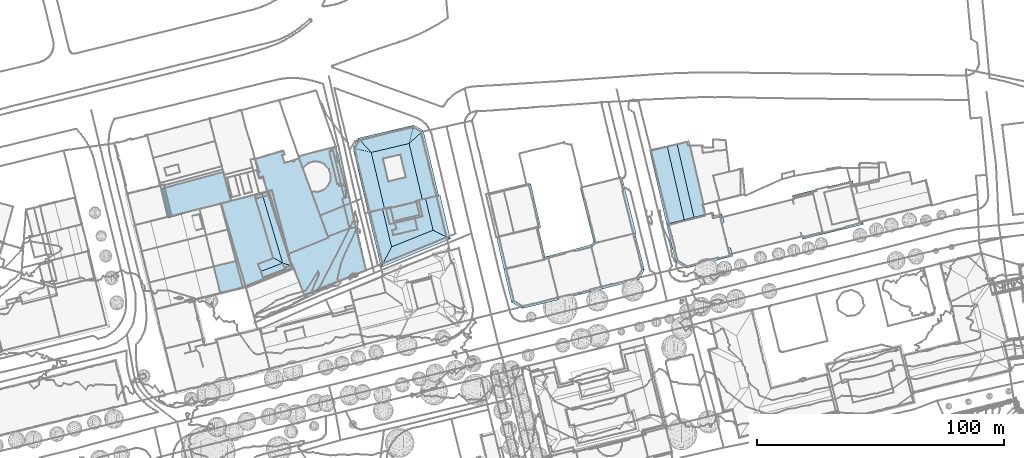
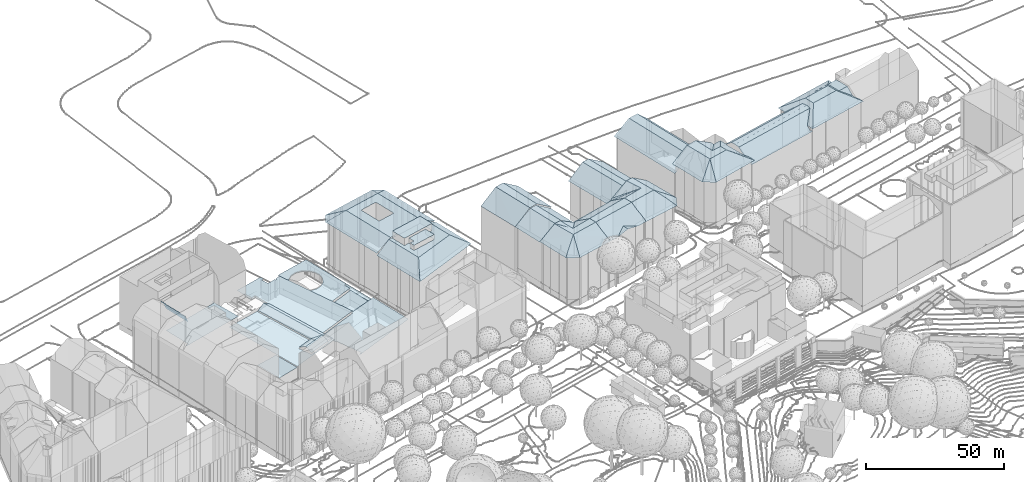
# Not in any storey, part 81 of 494: 22 roofs.
"""IFC2X3 model written with IfcOpenShell, lengths in metres."""

from ifc_helpers import new_model, si_unit, frame, origin_with_axes, place, context, subcontext, project, faceted_brep, element, save


model = new_model("IFC2X3")

# Units and contexts
model_context = context("Model", 3, precision=1e-05, world=origin_with_axes())
body_context = subcontext(model_context, "Body", "Model", "MODEL_VIEW")
ifc_project = project(units=[si_unit("AREAUNIT", "SQUARE_METRE"), si_unit("LENGTHUNIT", "METRE")], contexts=[model_context])

# Roofs
roof_1_placement = place(None, frame((230.2577320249, 452.7801160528, 539.0125), z_axis=(0.0, 0.0, 1.0), x_axis=(1.0, 0.0, 0.0)))
element("IfcRoof", 1, at=roof_1_placement, Name="Roof 0", ShapeType="NOTDEFINED", context=body_context, shape_type="Brep", body=[
    faceted_brep([(23.8570000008, 8.5830000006, 21.8509), (6.8570000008, -1.5791000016, 25.1226), (22.1760000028, 2.0302999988, 25.1226), (2.2350000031, 3.4296999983, 21.8829), (24.0930000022, 9.504900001, 21.391), (1.5340000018, 4.1893999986, 21.391), (13.8490000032, -13.3555000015, 25.1226), (11.6790000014, -4.1464999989, 25.1226), (12.2440000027, -24.438500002, 25.1226), (18.75, -2.4805000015, 25.1226), (20.9200000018, -11.6895000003, 25.1226), (27.5240000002, -20.6680000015, 25.1226), (14.689000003, -23.8672000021, 25.1226), (25.1650000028, -21.2373000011, 25.1226), (14.745000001, -24.0771999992, 25.1226), (25.2350000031, -21.5371000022, 25.1226), (29.6030000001, -20.1660000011, 23.9547), (34.1680000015, -19.0645000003, 21.3909), (27.9580000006, 7.2890000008, 21.391), (27.1000000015, 6.5088, 21.9449), (33.3600000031, -19.259800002, 21.8449), (0.0490000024, 0.0800999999, 21.7119), (6.3790000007, -25.7998000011, 21.8349), (5.5880000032, -25.9902999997, 21.3909), (-0.5919999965, 0.2353000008, 21.391)], [[[0, 1, 2]], [[3, 0, 4]], [[0, 3, 1]], [[3, 4, 5]], [[1, 6, 7]], [[6, 1, 8]], [[1, 7, 9]], [[2, 9, 10]], [[9, 2, 1]], [[2, 10, 11]], [[6, 12, 10]], [[12, 13, 10]], [[13, 11, 10]], [[14, 15, 13]], [[13, 12, 14]], [[12, 6, 8]], [[11, 16, 2]], [[17, 18, 19]], [[19, 2, 16]], [[19, 20, 17]], [[19, 16, 20]], [[4, 0, 19]], [[19, 18, 4]], [[2, 19, 0]], [[21, 22, 1]], [[23, 21, 24]], [[22, 8, 1]], [[22, 21, 23]], [[24, 21, 5]], [[3, 5, 21]], [[1, 3, 21]]]),
])
roof_2_placement = place(None, frame((236.6347320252, 426.9871160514, 538.7695), z_axis=(0.0, 0.0, 1.0), x_axis=(1.0, 0.0, 0.0)))
element("IfcRoof", 2, at=roof_2_placement, Name="Roof 0", ShapeType="NOTDEFINED", context=body_context, shape_type="Brep", body=[
    faceted_brep([(9.4869999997, -9.3182999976, 27.1124), (10.7780000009, -6.8856999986, 27.1124), (9.012000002, -7.3016999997, 27.1124), (19.2790000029, -7.0117000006, 27.1124), (18.2190000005, -2.5136999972, 27.1124), (10.194000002, -4.4043000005, 27.1124)], [[[0, 1, 2]], [[1, 0, 3]], [[1, 4, 5]], [[4, 1, 3]]]),
])
roof_3_placement = place(None, frame((236.6347320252, 426.9871160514, 538.7695), z_axis=(0.0, 0.0, 1.0), x_axis=(1.0, 0.0, 0.0)))
element("IfcRoof", 3, at=roof_3_placement, Name="Roof 1", ShapeType="NOTDEFINED", context=body_context, shape_type="Brep", body=[
    faceted_brep([(5.2550000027, -20.7441000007, 21.5019), (4.432, -22.3534999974, 20.686), (8.6070000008, -19.3710999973, 21.5229), (25.5140000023, -7.2929999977, 24.9116), (8.694000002, -14.0253999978, 24.9116), (5.0970000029, 1.2393000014, 24.9116), (0.0, 0.0, 21.253), (-0.7899999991, -0.1923999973, 20.686), (9.4869999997, -9.3182999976, 24.9116), (9.012000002, -7.3016999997, 24.9116), (8.0160000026, -4.9169999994, 24.9116), (10.7780000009, -6.8856999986, 24.9116), (10.194000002, -4.4043000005, 24.9116), (19.2790000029, -7.0117000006, 24.9116), (6.5670000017, 1.2305000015, 24.9116), (8.2880000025, 2.0155999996, 24.9116), (5.8500000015, 1.4229000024, 24.9116), (8.3680000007, 1.7158000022, 24.9116), (21.3790000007, -1.7685000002, 24.9116), (18.2190000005, -2.5136999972, 24.9116), (19.9299999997, 4.379900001, 24.9116), (22.5100000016, 5.4530999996, 24.9116), (18.8580000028, 4.2558999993, 24.9116), (18.7880000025, 4.5557000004, 24.9116), (31.0030000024, -10.0165999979, 21.6209), (32.5620000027, -10.7899999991, 20.686), (28.3990000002, 6.876000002, 20.686), (26.9830000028, 6.5331999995, 21.7019), (3.375, 0.8203000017, 23.5378), (5.0980000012, 1.2363000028, 24.7426), (5.0970000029, 1.2393000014, 24.7116), (5.8500000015, 1.4229000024, 24.7116)], [[[0, 1, 2]], [[3, 4, 0]], [[3, 0, 2]], [[5, 6, 0]], [[7, 1, 0]], [[4, 5, 0]], [[0, 6, 7]], [[4, 8, 9]], [[10, 9, 11]], [[10, 11, 12]], [[8, 4, 13]], [[4, 9, 10]], [[10, 5, 4]], [[5, 10, 14]], [[15, 16, 14]], [[14, 16, 5]], [[15, 14, 17]], [[13, 18, 19]], [[18, 13, 3]], [[14, 20, 17]], [[20, 18, 21]], [[21, 18, 3]], [[13, 4, 3]], [[20, 22, 17]], [[20, 23, 22]], [[20, 21, 23]], [[24, 25, 26]], [[3, 24, 27]], [[26, 27, 24]], [[27, 21, 3]], [[2, 1, 25]], [[2, 24, 3]], [[24, 2, 25]], [[28, 29, 30]], [[31, 30, 29]]]),
])
roof_4_placement = place(None, frame((236.6347320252, 426.9871160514, 538.7695), z_axis=(0.0, 0.0, 1.0), x_axis=(1.0, 0.0, 0.0)))
element("IfcRoof", 4, at=roof_4_placement, Name="Roof 2", ShapeType="NOTDEFINED", context=body_context, shape_type="Brep", body=[
    faceted_brep([(21.3790000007, -1.7685000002, 28.0713), (19.9299999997, 4.379900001, 28.0713), (8.0160000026, -4.9169999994, 28.0713), (6.5670000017, 1.2305000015, 28.0713)], [[[0, 1, 2]], [[3, 2, 1]]]),
])
roof_5_placement = place(None, frame((283.6617320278, 434.311316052, 538.7775), z_axis=(0.0, 0.0, 1.0), x_axis=(1.0, 0.0, 0.0)))
element("IfcRoof", 5, at=roof_5_placement, Name="Roof 0", ShapeType="NOTDEFINED", context=body_context, shape_type="Brep", body=[
    faceted_brep([(14.2960000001, -15.1748000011, 26.1374), (9.9450000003, 2.3330000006, 26.1805), (14.1519999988, -15.2157999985, 26.1374), (14.7309999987, -15.0731999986, 26.1374), (11.3239999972, -15.8759000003, 26.1404), (10.8019999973, 2.5371000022, 26.1365), (20.481999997, -13.75, 22.1768), (21.1209999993, -13.6035000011, 21.7359), (4.1699999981, -17.5546999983, 21.2009), (4.6229999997, -14.6415999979, 21.9539), (7.1600000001, 1.6689999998, 26.1705), (1.1669999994, 0.2725000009, 21.9729), (0.0, 0.0, 21.1559), (20.9780000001, -11.8506000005, 21.5749), (22.0720000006, -13.3973999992, 21.0839), (17.2469999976, 4.0751999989, 21.6909), (17.4519999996, 3.3311000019, 21.6649), (18.0109999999, 4.2588, 21.1619)], [[[0, 1, 2]], [[1, 0, 3]], [[1, 4, 2]], [[1, 3, 5]], [[6, 5, 3]], [[5, 6, 7]], [[8, 4, 9]], [[10, 9, 4]], [[11, 12, 9]], [[9, 10, 11]], [[8, 9, 12]], [[4, 1, 10]], [[13, 5, 7]], [[7, 14, 13]], [[15, 5, 16]], [[16, 13, 14]], [[13, 16, 5]], [[16, 14, 17]], [[17, 15, 16]]]),
])
roof_6_placement = place(None, frame((308.8567320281, 408.4549160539, 538.5095), z_axis=(0.0, 0.0, 1.0), x_axis=(1.0, 0.0, 0.0)))
element("IfcRoof", 6, at=roof_6_placement, Name="Roof 0", ShapeType="NOTDEFINED", context=body_context, shape_type="Brep", body=[
    faceted_brep([(16.0429999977, -13.2539000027, 21.9528), (21.1730000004, -10.4922000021, 22.9007), (20.5169999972, -7.8545000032, 24.3446), (17.5259999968, -13.6045000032, 21.6258), (12.1549999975, -12.3379000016, 22.8087), (21.481999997, -11.7373000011, 22.0998), (21.6899999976, -12.572300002, 21.5059), (12.7699999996, -14.7539000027, 22.6967), (9.057, -14.9844000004, 21.9508), (7.8849999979, -15.9854000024, 21.6258), (3.057, -12.2881000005, 24.3036), (5.8849999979, -15.5283000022, 22.1838), (3.7410000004, -15.0381000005, 22.7807), (4.0009999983, -16.0850000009, 22.1238), (4.1969999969, -16.875, 21.6278), (19.8399999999, -5.130900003, 26.2024), (19.6349999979, -4.3057000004, 26.2034), (1.8229999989, -7.3281000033, 26.2114), (2.3619999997, -9.4942000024, 26.2094), (7.6030000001, 2.3261999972, 21.6629), (17.0199999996, 5.3085999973, 21.3799), (-0.199000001, 0.7987999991, 21.4219), (6.7300000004, 2.0487999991, 21.6889), (0.0, 0.0, 21.8489), (1.2280000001, 0.3055999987, 21.8539), (0.0189999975, -0.077200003, 21.8899), (1.0329999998, -4.1513999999, 24.6236), (13.9749999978, 3.5067999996, 21.9978), (18.9299999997, -1.4707000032, 26.1614), (1.5929999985, -6.4024000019, 26.1974), (17.2699999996, 5.2030999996, 21.4949), (17.4709999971, 4.3944999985, 22.0598), (17.2009999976, 5.4794999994, 21.3729)], [[[0, 1, 2]], [[0, 3, 1]], [[4, 0, 2]], [[1, 3, 5]], [[5, 3, 6]], [[4, 7, 0]], [[7, 3, 0]], [[8, 9, 7]], [[7, 4, 8]], [[8, 4, 10]], [[9, 8, 11]], [[8, 12, 11]], [[12, 8, 10]], [[12, 13, 11]], [[14, 9, 11]], [[14, 11, 13]], [[15, 16, 17]], [[17, 18, 15]], [[2, 15, 18]], [[2, 10, 4]], [[10, 2, 18]], [[19, 20, 21]], [[22, 19, 21]], [[23, 24, 22]], [[25, 24, 23]], [[23, 22, 21]], [[26, 24, 25]], [[24, 26, 22]], [[27, 20, 19]], [[22, 26, 19]], [[19, 26, 27]], [[26, 28, 27]], [[28, 26, 29]], [[30, 27, 31]], [[20, 27, 30]], [[31, 27, 28]], [[29, 17, 16]], [[16, 28, 29]], [[30, 32, 20]]]),
])
roof_7_placement = place(None, frame((291.8077320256, 404.2273160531, 538.5095), z_axis=(0.0, 0.0, 1.0), x_axis=(1.0, 0.0, 0.0)))
element("IfcRoof", 7, at=roof_7_placement, Name="Roof 0", ShapeType="NOTDEFINED", context=body_context, shape_type="Brep", body=[
    faceted_brep([(8.7290000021, 2.0372000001, 26.1704), (10.2349999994, -4.5654000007, 26.2154), (9.0560000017, 2.1123999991, 25.9625), (6.251000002, 1.4580999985, 26.1834), (15.3000000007, 3.6279999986, 22.2338), (15.813000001, 3.7529999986, 21.9278), (6.0329999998, 1.4072999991, 26.1255), (8.4750000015, -7.9970000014, 26.2134), (20.7900000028, -10.8104999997, 22.7807), (20.1060000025, -8.0604999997, 24.3036), (6.688000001, -15.4052000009, 22.0827), (6.4940000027, -16.2080000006, 21.6357), (21.2459999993, -12.6473999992, 21.6278), (21.0500000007, -11.8574000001, 22.1238), (2.0260000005, -13.6766999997, 21.6257), (0.0, 0.0, 22.3178), (-1.0500000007, -0.2431000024, 21.6549), (0.4189999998, -1.4394000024, 22.3578), (18.0820000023, 0.0762000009, 24.6236), (18.6420000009, -2.1748000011, 26.1974), (18.8720000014, -3.1005000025, 26.2114), (19.4110000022, -5.2666000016, 26.2094), (15.7900000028, 3.9122000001, 21.8449), (17.0490000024, 4.2276000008, 21.8489), (15.6740000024, 4.7188000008, 21.4249), (17.068, 4.1503999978, 21.8899), (16.8500000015, 5.0263999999, 21.4219)], [[[0, 1, 2]], [[0, 3, 1]], [[2, 1, 4]], [[5, 4, 1]], [[1, 3, 6]], [[7, 1, 6]], [[7, 8, 9]], [[10, 11, 12]], [[7, 10, 8]], [[10, 13, 8]], [[13, 10, 12]], [[11, 10, 14]], [[14, 10, 7]], [[15, 16, 17]], [[17, 7, 6]], [[17, 6, 15]], [[17, 16, 14]], [[14, 7, 17]], [[18, 1, 19]], [[1, 20, 19]], [[1, 7, 20]], [[21, 20, 7]], [[7, 9, 21]], [[22, 23, 24]], [[25, 22, 5]], [[23, 26, 24]], [[23, 22, 25]], [[25, 5, 1]], [[1, 18, 25]]]),
])
roof_8_placement = place(None, frame((322.3647320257, 436.9627160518, 538.8935), z_axis=(0.0, 0.0, 1.0), x_axis=(1.0, 0.0, 0.0)))
element("IfcRoof", 8, at=roof_8_placement, Name="Roof 0", ShapeType="NOTDEFINED", context=body_context, shape_type="Brep", body=[
    faceted_brep([(11.8310000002, -20.9481999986, 22.2648), (14.6490000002, -20.2509999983, 22.2648), (9.0160000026, 2.2666000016, 22.2648), (6.2010000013, 1.558600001, 22.2648), (0.0, 0.0, 17.8492), (5.693, -22.4668000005, 17.8982), (4.9059999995, -22.6620999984, 17.3382), (-0.7179999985, -0.1796999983, 17.3383), (20.9400000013, -18.6942999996, 18.0102), (21.9340000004, -18.4481999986, 17.3382), (15.5370000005, 3.9061999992, 17.8512), (16.2939999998, 4.0956999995, 17.3383)], [[[0, 1, 2]], [[0, 2, 3]], [[4, 5, 0]], [[4, 0, 3]], [[6, 4, 7]], [[4, 6, 5]], [[8, 9, 10]], [[1, 8, 2]], [[8, 10, 2]], [[10, 9, 11]]]),
])
roof_9_placement = place(None, frame((288.8057320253, 417.0477160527, 538.6815), z_axis=(0.0, 0.0, 1.0), x_axis=(1.0, 0.0, 0.0)))
element("IfcRoof", 9, at=roof_9_placement, Name="Roof 0", ShapeType="NOTDEFINED", context=body_context, shape_type="Brep", body=[
    faceted_brep([(9.1500000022, 2.0956999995, 25.9555), (6.3619999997, 1.4580000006, 25.9555), (12.0899999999, -10.7422000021, 25.9554), (9.3030000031, -11.379900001, 25.9555), (18.3300000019, -9.3125, 21.6609), (15.3370000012, 3.5135999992, 21.6959), (15.9810000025, 3.6611000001, 21.2529), (18.9220000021, -9.1768000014, 21.2529), (3.0020000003, -12.8233000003, 21.9248), (1.9519999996, -13.063500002, 21.2529), (0.0, 0.0, 21.8859), (-0.9890000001, -0.2256000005, 21.2529)], [[[0, 1, 2]], [[3, 2, 1]], [[2, 4, 5]], [[6, 4, 7]], [[2, 5, 0]], [[5, 4, 6]], [[8, 3, 1]], [[9, 8, 10]], [[1, 10, 8]], [[10, 11, 9]]]),
])
roof_10_placement = place(None, frame((326.3277320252, 412.8494160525, 538.5095), z_axis=(0.0, 0.0, 1.0), x_axis=(1.0, 0.0, 0.0)))
element("IfcRoof", 10, at=roof_10_placement, Name="Roof 0", ShapeType="NOTDEFINED", context=body_context, shape_type="Brep", body=[
    faceted_brep([(4.2190000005, -16.9668000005, 21.5059), (16.4050000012, -10.253899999, 23.5867), (4.012000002, -16.1328000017, 22.0998), (13.1330000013, -6.8388999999, 26.1984), (3.7020000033, -14.8867000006, 22.9007), (3.0460000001, -12.2490000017, 24.3446), (9.9140000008, 3.6708999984, 26.2564), (9.9060000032, -3.4629000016, 26.1434), (10.2670000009, 3.7578000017, 26.2694), (1.4590000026, -5.8652000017, 26.1614), (2.1640000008, -8.7001999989, 26.2034), (2.3690000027, -9.5254000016, 26.2024), (7.4759999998, 3.0683999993, 26.2614), (7.6760000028, 3.1171999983, 26.2614), (0.9140000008, 2.1992000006, 21.3269), (1.7750000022, 1.6572000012, 21.7879), (-0.2699999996, 1.0850000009, 21.3729), (0.5260000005, 0.5009999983, 21.8298), (-0.2009999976, 0.808600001, 21.4949), (0.0, 0.0, 22.0598), (18.3960000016, -12.496100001, 21.7298), (19.0950000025, -13.2811999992, 21.0779), (18.745000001, -11.9169999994, 21.7338), (17.7730000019, -8.128899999, 23.5547), (17.3600000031, 5.5146999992, 21.5089), (16.9660000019, 5.4160000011, 21.7678), (17.4280000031, 3.253899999, 21.8478), (10.6460000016, 3.8526000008, 26.0254), (20.5439999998, -8.8817999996, 21.8728), (21.3840000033, -9.1094000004, 21.3629), (17.5700000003, 5.566399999, 21.3629)], [[[0, 1, 2]], [[2, 1, 3]], [[2, 3, 4]], [[4, 3, 5]], [[6, 7, 8]], [[3, 8, 7]], [[9, 10, 3]], [[3, 7, 9]], [[3, 10, 11]], [[5, 3, 11]], [[12, 7, 13]], [[13, 7, 6]], [[14, 15, 12]], [[7, 12, 15]], [[14, 16, 15]], [[17, 16, 18]], [[7, 15, 16]], [[7, 16, 17]], [[9, 7, 17]], [[17, 18, 19]], [[17, 19, 9]], [[20, 21, 22]], [[23, 1, 20]], [[23, 20, 22]], [[23, 3, 1]], [[24, 25, 26]], [[26, 3, 23]], [[3, 26, 25]], [[1, 0, 20]], [[21, 20, 0]], [[27, 3, 25]], [[8, 3, 27]], [[28, 26, 23]], [[26, 28, 29]], [[26, 30, 24]], [[30, 26, 29]], [[22, 21, 29]], [[28, 23, 22]], [[29, 28, 22]]]),
])
roof_11_placement = place(None, frame((350.3717320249, 451.8328160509, 539.2744), z_axis=(0.0, 0.0, 1.0), x_axis=(1.0, 0.0, 0.0)))
element("IfcRoof", 11, at=roof_11_placement, Name="Roof 0", ShapeType="NOTDEFINED", context=body_context, shape_type="Brep", body=[
    faceted_brep([(6.4800000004, 2.1455000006, 21.9849), (6.6030000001, 1.6152000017, 21.9849), (10.568, 2.5850000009, 21.9849), (10.4570000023, 3.0654000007, 21.9849), (17.6970000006, -28.2821999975, 21.9848), (13.7200000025, -29.2011999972, 21.9848), (15.3710000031, 4.2012000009, 17.4763), (15.875, 2.0215000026, 17.4763), (21.376000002, -21.8007999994, 17.4763), (22.6110000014, -27.1473999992, 17.4763), (-0.6949999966, 0.4893000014, 17.4763), (6.5450000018, -30.8583999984, 17.4763)], [[[0, 1, 2]], [[2, 3, 0]], [[1, 4, 2]], [[5, 4, 1]], [[3, 2, 6]], [[7, 6, 2]], [[2, 8, 7]], [[9, 8, 4]], [[4, 8, 2]], [[10, 1, 0]], [[1, 10, 5]], [[11, 5, 10]]]),
])
roof_12_placement = place(None, frame((378.372732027, 425.1658160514, 539.4553), z_axis=(0.0, 0.0, 1.0), x_axis=(1.0, 0.0, 0.0)))
element("IfcRoof", 12, at=roof_12_placement, Name="Roof 0", ShapeType="NOTDEFINED", context=body_context, shape_type="Brep", body=[
    faceted_brep([(42.9589999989, 6.6601999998, 24.2637), (42.9739999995, 6.5987000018, 24.2637), (49.7650000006, 8.259800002, 24.2637), (55.1570000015, 3.6768000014, 24.3037), (53.7670000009, 9.3027999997, 24.2637), (51.068, 2.6768000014, 24.3037), (55.8299999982, 0.9530999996, 21.5439), (37.4340000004, 3.4814999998, 25.3786), (38.449000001, -0.6708999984, 25.3786), (49.5329999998, 2.0401000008, 25.3786), (48.5179999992, 6.1933999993, 25.3786), (29.436999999, 6.9081999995, 20.827), (29.8669999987, 5.1484999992, 20.827), (29.8159999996, 8.1328000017, 21.259), (29.0179999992, 8.6201000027, 20.827), (35.7190000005, 2.5595999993, 24.1447), (36.4279999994, 0.6865000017, 24.3047), (33.8370000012, -8.3134999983, 21.2579), (32.6669999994, -6.2987999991, 20.827), (33.0839999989, -8.0057999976, 20.827), (33.3550000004, -9.1132999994, 20.827), (36.6629999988, -1.3016999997, 24.1447), (56.631000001, -2.2928999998, 21.5399), (57.949000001, -3.0975999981, 20.827), (57.0370000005, -2.5409999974, 21.3199), (56.9820000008, -2.5077999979, 21.3499), (53.2829999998, 11.2655999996, 21.5599), (53.3000000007, 11.1953000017, 21.5599), (54.2650000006, 11.9629000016, 20.827), (49.8530000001, 8.4063000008, 24.1847), (52.936999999, 13.5175999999, 21.4289), (53.6110000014, 14.634800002, 20.827), (42.9450000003, 6.7168000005, 24.1847), (3.7060000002, -14.8319999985, 19.6311), (32.7230000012, -6.5282999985, 20.627), (33.0839999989, -8.0057999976, 19.3341), (4.3539999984, -15.378899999, 19.0482), (3.8720000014, -15.4969999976, 19.0482), (2.4180000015, -9.6766999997, 24.1447), (33.6479999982, -7.8662, 19.3361), (33.7300000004, -8.1952999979, 19.0482), (2.0109999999, -9.7773000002, 24.1447), (2.6609999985, -12.436499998, 21.8189), (3.1570000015, -12.6367000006, 21.5529), (1.5390000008, -7.8456999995, 24.3047), (1.0659999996, -5.9149999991, 24.1447), (0.6510000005, -2.6044999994, 21.328), (0.3500000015, -2.9862999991, 21.5829), (29.8110000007, 5.3780000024, 20.627), (0.0, 0.0, 19.0488), (29.4371000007, 6.9079999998, 19.2895), (0.4160000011, 0.1016000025, 19.0488), (30.0179999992, 7.0527999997, 19.2872), (29.9499999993, 7.3252000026, 19.0482), (57.4529999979, -1.0692999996, 20.827), (56.193, -0.5185000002, 21.5419)], [[[0, 1, 2]], [[2, 3, 4]], [[3, 2, 5]], [[2, 4, 0]], [[5, 6, 3]], [[7, 8, 9]], [[9, 10, 7]], [[11, 12, 13]], [[14, 11, 13]], [[13, 15, 7]], [[15, 13, 12]], [[7, 15, 16]], [[17, 18, 19]], [[17, 19, 20]], [[16, 8, 7]], [[8, 16, 21]], [[21, 17, 8]], [[18, 17, 21]], [[22, 8, 17]], [[22, 9, 8]], [[17, 20, 23]], [[24, 25, 17]], [[25, 22, 17]], [[24, 17, 23]], [[26, 27, 28]], [[29, 26, 30]], [[28, 31, 30]], [[28, 30, 26]], [[30, 31, 13]], [[2, 1, 10]], [[30, 32, 29]], [[30, 13, 32]], [[13, 31, 14]], [[32, 13, 7]], [[7, 1, 32]], [[1, 7, 10]], [[33, 34, 18]], [[35, 34, 33]], [[36, 33, 37]], [[35, 33, 36]], [[18, 21, 38]], [[39, 35, 40]], [[36, 40, 35]], [[38, 41, 42]], [[43, 18, 42]], [[33, 18, 43]], [[18, 38, 42]], [[21, 44, 38]], [[44, 21, 16]], [[44, 41, 38]], [[16, 15, 44]], [[44, 15, 45]], [[45, 15, 12]], [[46, 47, 12]], [[12, 47, 45]], [[46, 12, 48]], [[49, 50, 51]], [[48, 49, 46]], [[50, 49, 48]], [[52, 53, 50]], [[50, 53, 51]], [[23, 54, 24]], [[54, 25, 24]], [[25, 54, 22]], [[54, 55, 22]], [[5, 55, 6]], [[9, 5, 10]], [[9, 22, 5]], [[10, 5, 2]], [[5, 22, 55]], [[32, 0, 29]], [[29, 0, 4]], [[29, 4, 26]]]),
])
roof_13_placement = place(None, frame((357.6657320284, 421.8289160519, 539.1994), z_axis=(0.0, 0.0, 1.0), x_axis=(1.0, 0.0, 0.0)))
element("IfcRoof", 13, at=roof_13_placement, Name="Roof 0", ShapeType="NOTDEFINED", context=body_context, shape_type="Brep", body=[
    faceted_brep([(18.1679999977, 3.8115000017, 21.1109), (17.7619999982, 3.1669999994, 21.4499), (17.9029999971, 2.6816000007, 21.7559), (12.3409999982, -5.442400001, 25.9655), (16.1769999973, -4.6942999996, 25.9655), (20.6989999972, 3.371100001, 21.7719), (21.3929999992, 4.6074000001, 21.1289), (21.7029999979, 3.4483000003, 21.1249), (20.9549999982, 2.3456999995, 21.7799), (22.2619999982, 1.2734000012, 21.1209), (21.4729999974, 0.2743999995, 21.7859), (21.4959999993, 0.1777999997, 21.7869), (10.4019999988, 2.6436000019, 25.9645), (17.1619999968, 4.7021999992, 21.6109), (17.2289999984, 4.8427999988, 21.5499), (10.2859999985, 3.128899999, 25.9645), (17.8669999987, 5.0, 21.1349), (6.5079999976, 2.1953000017, 25.9655), (6.182, 1.572300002, 25.9655), (6.055999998, 2.0850000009, 25.9655), (8.9079999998, -9.5381000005, 25.9685), (-0.6010000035, 0.4404000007, 21.5209), (0.0639999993, -0.2567999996, 21.8319), (16.8759999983, -7.5830000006, 25.9654), (7.1589999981, -16.7118999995, 21.6089), (6.9599999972, -17.5273000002, 21.1139), (7.8339999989, -16.6503999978, 21.5419), (3.4959999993, -14.1338, 21.8198), (2.6209999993, -14.8779000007, 21.1489), (-1.0480000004, 0.3311000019, 21.2199), (24.379999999, -11.3623000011, 21.9558), (24.5179999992, -11.9131000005, 21.9588), (25.7829999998, -12.629900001, 21.2959), (25.6219999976, -11.9882999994, 21.2919), (23.932, -9.5713, 22.0188), (25.0949999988, -9.8984000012, 21.3689), (22.1539999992, -2.4512000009, 21.8308), (22.2019999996, -2.6475000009, 21.8358), (22.3929999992, -3.4100999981, 21.8478), (22.6509999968, -4.442400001, 21.8638), (22.943, -5.6112999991, 21.8838), (23.0419999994, -6.0088, 21.8818), (22.9919999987, -5.808600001, 21.8828), (23.754999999, -8.8623000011, 21.9918), (23.125, -6.3388999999, 21.8938), (24.9549999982, -9.3486000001, 21.3489)], [[[0, 1, 2]], [[2, 3, 4]], [[3, 2, 1]], [[2, 4, 5]], [[0, 5, 6]], [[5, 0, 2]], [[7, 6, 8]], [[5, 4, 8]], [[5, 8, 6]], [[9, 7, 10]], [[10, 7, 8]], [[10, 4, 11]], [[4, 10, 8]], [[12, 3, 13]], [[12, 14, 15]], [[14, 12, 13]], [[16, 14, 13]], [[16, 13, 1]], [[1, 0, 16]], [[3, 1, 13]], [[12, 15, 17]], [[3, 12, 17]], [[18, 17, 19]], [[20, 3, 17]], [[20, 17, 18]], [[21, 22, 18]], [[21, 18, 19]], [[18, 22, 20]], [[3, 23, 4]], [[20, 23, 3]], [[24, 25, 26]], [[26, 23, 20]], [[26, 20, 24]], [[25, 24, 27]], [[25, 27, 28]], [[27, 24, 20]], [[21, 29, 22]], [[22, 29, 28]], [[27, 20, 22]], [[28, 27, 22]], [[30, 23, 31]], [[32, 33, 30]], [[32, 30, 31]], [[34, 23, 30]], [[33, 35, 34]], [[33, 34, 30]], [[26, 25, 32]], [[26, 31, 23]], [[31, 26, 32]], [[36, 11, 4]], [[37, 36, 4]], [[4, 38, 37]], [[39, 4, 40]], [[39, 38, 4]], [[41, 42, 4]], [[4, 23, 41]], [[4, 42, 40]], [[23, 43, 44]], [[23, 44, 41]], [[34, 35, 45]], [[45, 43, 34]], [[34, 43, 23]]]),
])
roof_14_placement = place(None, frame((146.5207320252, 458.1258160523, 539.1716), z_axis=(0.0, 0.0, 1.0), x_axis=(1.0, 0.0, 0.0)))
element("IfcRoof", 14, at=roof_14_placement, Name="Roof 0", ShapeType="NOTDEFINED", context=body_context, shape_type="Brep", body=[
    faceted_brep([(30.8340000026, -13.8359999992, 9.859), (30.5660000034, -13.9092000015, 9.859), (30.8230000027, -14.8828000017, 9.859), (34.2760000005, -26.5331999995, 9.859), (33.9230000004, -26.629900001, 9.859), (30.0260000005, -27.6796999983, 9.859), (9.8440000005, -32.6875, 9.859), (8.6229999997, -33.4862999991, 9.859), (7.1530000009, -21.2987999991, 9.859), (8.5, -33.0322000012, 9.859)], [[[0, 1, 2]], [[3, 2, 4]], [[2, 3, 0]], [[5, 4, 2]], [[5, 6, 7]], [[6, 5, 8]], [[7, 6, 9]], [[8, 5, 2]]]),
])
roof_15_placement = place(None, frame((146.5207320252, 458.1258160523, 539.1716), z_axis=(0.0, 0.0, 1.0), x_axis=(1.0, 0.0, 0.0)))
element("IfcRoof", 15, at=roof_15_placement, Name="Roof 1", ShapeType="NOTDEFINED", context=body_context, shape_type="Brep", body=[
    faceted_brep([(5.7270000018, -21.6865000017, 22.7538), (5.3910000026, -20.4111000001, 22.8278), (5.3330000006, -20.4248000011, 22.9578), (8.3230000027, -33.0771999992, 22.9577), (9.8440000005, -32.6875, 19.5231), (7.1530000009, -21.2987999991, 19.5231)], [[[0, 1, 2]], [[0, 3, 4]], [[3, 0, 2]], [[0, 4, 5]]]),
])
roof_16_placement = place(None, frame((171.6827320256, 464.931416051, 544.4901), z_axis=(0.0, 0.0, 1.0), x_axis=(1.0, 0.0, 0.0)))
element("IfcRoof", 16, at=roof_16_placement, Name="Roof 1", ShapeType="NOTDEFINED", context=body_context, shape_type="Brep", body=[
    faceted_brep([(33.6080000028, -60.4159999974, 2.0357), (30.7530000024, -60.8993999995, 2.0357), (21.7699999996, -64.3495999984, 2.0357), (33.0670000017, -59.6063999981, 2.0357), (32.1319999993, -54.8358999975, 2.0357), (31.9940000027, -55.9725999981, 2.0357), (30.4890000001, -60.3671000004, 2.0357), (13.5439999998, -68.297799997, 2.0357), (14.1380000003, -68.1405999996, 2.0357), (14.1190000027, -68.0711999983, 2.0357), (19.699000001, -58.9579999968, 2.0357), (31.6400000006, -55.0361000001, 2.0357), (18.4000000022, -31.3719999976, 2.0357), (20.3080000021, -30.8084999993, 2.0357), (20.2210000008, -30.4725999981, 2.0357), (7.3910000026, -45.0252999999, 2.0357), (25.8440000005, -56.5965999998, 2.0357), (8.762000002, -33.4375, 2.0357), (8.75, -33.3915999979, 2.0357), (4.6040000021, -34.4872999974, 2.0357)], [[[0, 1, 2]], [[1, 0, 3]], [[4, 5, 3]], [[1, 3, 6]], [[4, 3, 0]], [[7, 8, 9]], [[9, 0, 2]], [[2, 10, 9]], [[7, 9, 10]], [[11, 5, 4]], [[12, 13, 14]], [[15, 7, 10]], [[16, 12, 15]], [[15, 12, 17]], [[17, 18, 19]], [[17, 12, 14]], [[17, 19, 15]], [[15, 10, 16]]]),
])
roof_17_placement = place(None, frame((171.6827320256, 464.931416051, 544.4901), z_axis=(0.0, 0.0, 1.0), x_axis=(1.0, 0.0, 0.0)))
element("IfcRoof", 17, at=roof_17_placement, Name="Roof 2", ShapeType="NOTDEFINED", context=body_context, shape_type="Brep", body=[
    faceted_brep([(30.4830000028, -18.0086999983, 2.2927), (24.2270000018, -29.6512999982, 2.2927), (48.182, -48.302699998, 2.2926), (33.8560000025, -17.4881999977, 2.2927), (37.0789999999, -18.2079999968, 2.2927), (31.7090000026, -55.0077999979, 2.2926), (36.3110000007, -16.125, 2.2927), (34.4930000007, -17.2625999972, 2.2927), (31.5340000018, -17.7567999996, 2.2927), (21.7800000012, -23.5692999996, 2.2927), (24.2190000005, -14.7264999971, 2.2927), (23.3570000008, -29.6620999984, 2.2927), (20.3080000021, -30.8084999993, 2.2927), (20.2210000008, -30.4725999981, 2.2927), (19.5910000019, -20.7987999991, 2.2927), (19.9979999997, -24.0301999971, 2.2927), (34.3350000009, -16.8084999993, 2.2927), (33.6999999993, -17.0350999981, 2.2927), (30.4539999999, -14.6063999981, 2.2927), (29.9849999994, -13.2342999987, 2.2927), (29.4389999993, -14.9199000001, 2.2927), (31.5030000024, -17.6629999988, 2.2927), (19.1810000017, -20.9041999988, 2.2927), (18.4100000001, -16.2303999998, 2.2927)], [[[0, 1, 2]], [[3, 2, 4]], [[2, 1, 5]], [[6, 7, 4]], [[2, 3, 8]], [[7, 3, 4]], [[9, 1, 10]], [[1, 11, 12]], [[12, 11, 13]], [[14, 15, 9]], [[1, 9, 11]], [[16, 7, 6]], [[17, 8, 3]], [[18, 19, 20]], [[8, 21, 0]], [[22, 15, 14]], [[10, 23, 9]], [[0, 10, 1]], [[23, 14, 9]], [[10, 20, 19]], [[0, 20, 10]], [[2, 8, 0]]]),
])
roof_18_placement = place(None, frame((171.6827320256, 464.931416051, 544.4901), z_axis=(0.0, 0.0, 1.0), x_axis=(1.0, 0.0, 0.0)))
element("IfcRoof", 18, at=roof_18_placement, Name="Roof 3", ShapeType="NOTDEFINED", context=body_context, shape_type="Brep", body=[
    faceted_brep([(29.568, -58.5086999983, 4.4094), (26.1090000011, -56.495099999, 2.7386), (20.818, -61.870099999, 4.4094), (19.699000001, -58.9579999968, 2.7386), (21.7699999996, -64.3495999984, 2.7386), (30.7530000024, -60.8993999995, 2.7386), (21.3060000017, -30.5135999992, 4.4095), (31.7090000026, -55.0077999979, 2.5666), (24.2270000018, -29.6512999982, 2.5667), (31.9940000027, -55.9725999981, 2.5666), (33.0670000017, -59.6063999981, 2.5666), (29.9070000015, -59.191399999, 3.7325), (30.4890000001, -60.3671000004, 2.5666), (18.4000000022, -31.3719999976, 2.5667), (25.8440000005, -56.5965999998, 2.5666)], [[[0, 1, 2]], [[3, 2, 1]], [[2, 4, 0]], [[5, 0, 4]], [[6, 7, 8]], [[7, 6, 0]], [[9, 0, 10]], [[0, 9, 7]], [[0, 11, 10]], [[12, 10, 11]], [[6, 13, 1]], [[14, 1, 13]], [[1, 0, 6]]]),
])
roof_19_placement = place(None, frame((207.923732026, 449.1404160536, 539.0145), z_axis=(0.0, 0.0, 1.0), x_axis=(1.0, 0.0, 0.0)))
element("IfcRoof", 19, at=roof_19_placement, Name="Roof 0", ShapeType="NOTDEFINED", context=body_context, shape_type="Brep", body=[
    faceted_brep([(-0.2129999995, 0.4316999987, 7.7683), (0.0700000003, -0.3340000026, 7.7683), (0.0219999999, 0.4921999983, 7.7673), (0.3940000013, 0.5888999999, 7.7653), (0.8379999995, -2.4169999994, 7.7683), (1.5820000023, -4.4345000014, 7.7683), (1.7789999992, -4.0381000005, 7.7663), (3.6060000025, -2.4384000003, 7.7553), (13.5520000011, 4.0108000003, 7.6973), (5.9059999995, -1.6621000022, 7.7433), (8.3289999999, -1.8232000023, 7.7323), (10.504999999, -2.8993999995, 7.7233), (12.1040000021, -4.7275000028, 7.7193), (5.0930000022, -13.8408000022, 7.7683), (5.0430000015, -13.8154000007, 7.7683), (8.6290000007, -23.5361000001, 7.7682), (7.5159999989, -14.0029000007, 7.7573), (9.8159999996, -13.2256000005, 7.7453), (11.6429999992, -11.6269000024, 7.7333), (18.2659999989, -19.5996000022, 7.7163), (12.8819999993, -7.0273000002, 7.7193), (12.7199999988, -9.451100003, 7.7243), (18.4649999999, -16.4189000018, 7.7093), (17.5980000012, -16.9101000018, 7.7143), (1.1339999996, -3.2177000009, 7.7633), (1.1339999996, -3.2177000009, 7.5733), (0.8379999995, -2.4169999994, 7.5683), (1.5820000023, -4.4345000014, 7.5683)], [[[0, 1, 2]], [[3, 2, 1]], [[4, 5, 6]], [[3, 1, 4]], [[7, 4, 6]], [[8, 3, 9]], [[7, 3, 4]], [[9, 3, 7]], [[10, 11, 8]], [[9, 10, 8]], [[8, 11, 12]], [[13, 14, 15]], [[16, 15, 17]], [[15, 16, 13]], [[18, 17, 19]], [[19, 17, 15]], [[20, 21, 22]], [[20, 22, 8]], [[23, 22, 21]], [[23, 21, 18]], [[18, 19, 23]], [[20, 8, 12]], [[24, 5, 4]], [[25, 26, 27]]]),
])
roof_20_placement = place(None, frame((207.923732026, 449.1404160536, 539.0145), z_axis=(0.0, 0.0, 1.0), x_axis=(1.0, 0.0, 0.0)))
element("IfcRoof", 20, at=roof_20_placement, Name="Roof 1", ShapeType="NOTDEFINED", context=body_context, shape_type="Brep", body=[
    faceted_brep([(17.5989999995, -16.9101000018, 6.0944), (20.5520000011, -28.8125, 6.0944), (18.4649999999, -16.4189000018, 6.0944), (23.0380000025, -28.2519000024, 6.0944), (14.2890000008, 4.2021999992, 6.0944), (13.5520000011, 4.0108000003, 6.0944), (15.129999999, 4.4208999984, 6.0944)], [[[0, 1, 2]], [[2, 1, 3]], [[4, 2, 3]], [[5, 2, 4]], [[4, 3, 6]]]),
])
roof_21_placement = place(None, frame((203.3227320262, 409.8953160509, 538.7355), z_axis=(0.0, 0.0, 1.0), x_axis=(1.0, 0.0, 0.0)))
element("IfcRoof", 21, at=roof_21_placement, Name="Roof 0", ShapeType="NOTDEFINED", context=body_context, shape_type="Brep", body=[
    faceted_brep([(23.1500000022, 20.1485000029, 6.8984), (22.7740000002, 20.0195000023, 6.8984), (22.8669999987, 19.6455000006, 6.8984), (25.4050000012, 10.6123000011, 6.8983), (16.3520000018, 7.2471000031, 6.8983), (13.2300000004, 15.7090000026, 6.8984), (5.5879999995, -16.9843999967, 7.0823), (5.7129999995, -17.3515999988, 7.0823), (6.8339999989, -16.4862999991, 7.0823), (2.0280000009, -5.3593999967, 7.0823), (1.8099999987, -4.7831999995, 7.0823), (1.9690000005, -5.3827999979, 7.0823), (2.5639999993, -5.7890999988, 7.0823), (32.1390000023, -6.6561999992, 7.0823), (27.8790000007, 11.5322000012, 7.0823), (16.5419999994, 6.7334000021, 7.0823), (2.2400000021, -5.9188999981, 7.0823), (0.0, 0.0, 7.0823), (16.3520000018, 7.2471000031, 7.0823)], [[[0, 1, 2]], [[0, 2, 3]], [[2, 4, 3]], [[4, 2, 5]], [[6, 7, 8]], [[9, 10, 11]], [[9, 12, 10]], [[8, 13, 12]], [[13, 8, 7]], [[13, 14, 12]], [[12, 15, 10]], [[12, 9, 16]], [[17, 10, 15]], [[12, 14, 15]], [[14, 18, 15]]]),
])
roof_22_placement = place(None, frame((147.4227320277, 398.5125160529, 538.0286), z_axis=(0.0, 0.0, 1.0), x_axis=(1.0, 0.0, 0.0)))
element("IfcRoof", 22, at=roof_22_placement, Name="Roof 1", ShapeType="NOTDEFINED", context=body_context, shape_type="Brep", body=[
    faceted_brep([(35.0139999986, 8.6728999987, 8.0922), (26.0639999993, 6.4569999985, 8.0922), (28.7639999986, -4.4922000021, 8.0922), (37.8039999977, -1.878899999, 8.0922)], [[[0, 1, 2]], [[2, 3, 0]]]),
])

save(model, "model.ifc")
